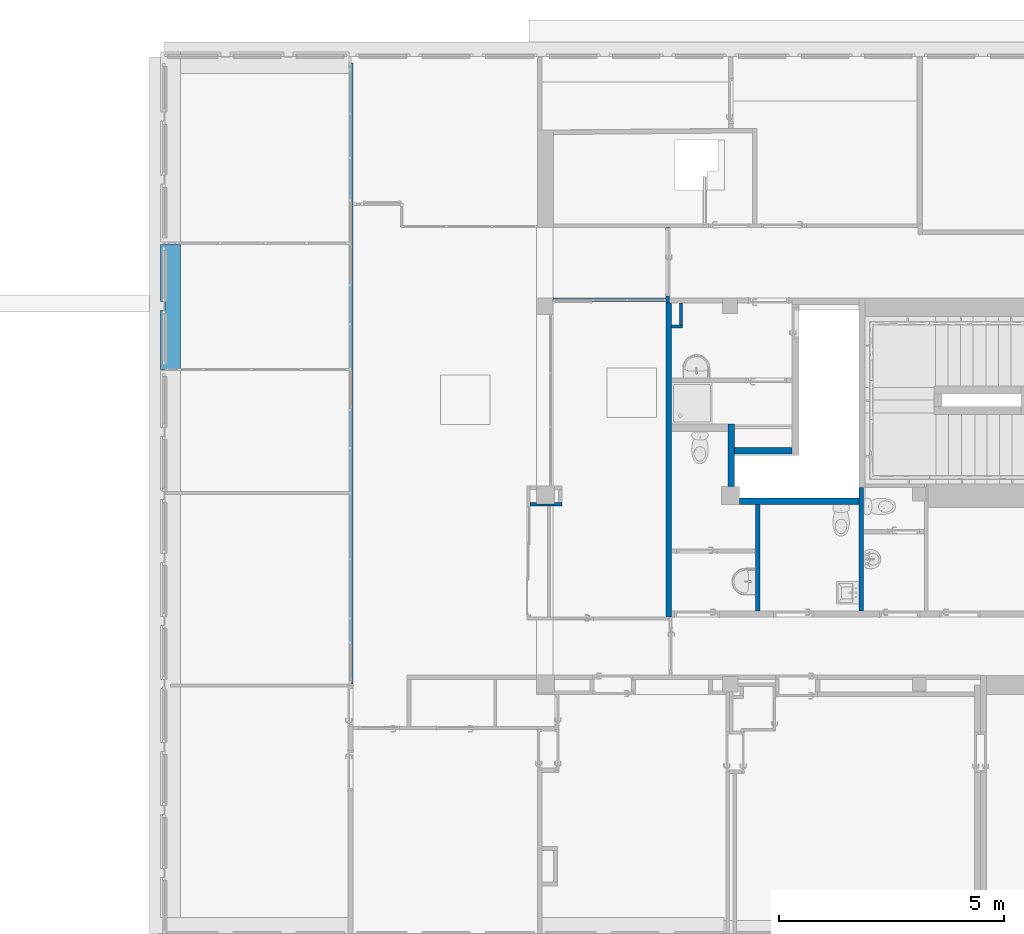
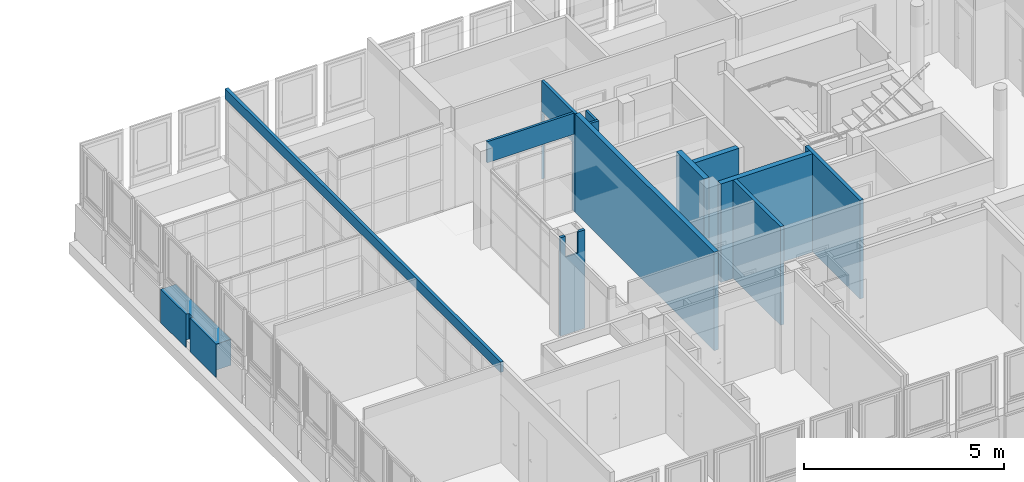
# One storey, part 74 of 97: 13 walls, 3 openings.
"""IFC4 building model written with IfcOpenShell, lengths in metres."""

from ifc_helpers import new_model, entity, si_unit, converted_unit, derived_unit, direction, frame, origin, place, context, subcontext, project, spatial, indexed_curve, outline, extrude, polygons, material, layer, layer_set, type_object, element, save


model = new_model("IFC4")

# Units and contexts
model_context = context("Model", 3, precision=1e-05, world=origin(), true_north=direction((6.12303176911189e-17, 1.0)))
body_context = subcontext(model_context, "Body", "Model", "MODEL_VIEW")
ifc_project = project(units=[si_unit("LENGTHUNIT", "METRE"), si_unit("AREAUNIT", "SQUARE_METRE"), si_unit("VOLUMEUNIT", "CUBIC_METRE"), converted_unit("PLANEANGLEUNIT", "DEGREE", entity("IfcRatioMeasure", 0.0174532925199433), si_unit("PLANEANGLEUNIT", "RADIAN"), dimensions=[0, 0, 0, 0, 0, 0, 0]), si_unit("MASSUNIT", "GRAM", prefix="KILO"), derived_unit("MASSDENSITYUNIT", [(si_unit("MASSUNIT", "GRAM", prefix="KILO"), 1), (si_unit("LENGTHUNIT", "METRE"), -3)]), derived_unit("MOMENTOFINERTIAUNIT", [(si_unit("LENGTHUNIT", "METRE"), 4)]), si_unit("TIMEUNIT", "SECOND"), si_unit("FREQUENCYUNIT", "HERTZ"), si_unit("THERMODYNAMICTEMPERATUREUNIT", "DEGREE_CELSIUS"), derived_unit("THERMALTRANSMITTANCEUNIT", [(si_unit("MASSUNIT", "GRAM", prefix="KILO"), 1), (si_unit("THERMODYNAMICTEMPERATUREUNIT", "KELVIN"), -1), (si_unit("TIMEUNIT", "SECOND"), -3)]), derived_unit("VOLUMETRICFLOWRATEUNIT", [(si_unit("LENGTHUNIT", "METRE"), 3), (si_unit("TIMEUNIT", "SECOND"), -1)]), si_unit("ELECTRICCURRENTUNIT", "AMPERE"), si_unit("ELECTRICVOLTAGEUNIT", "VOLT"), si_unit("POWERUNIT", "WATT"), si_unit("FORCEUNIT", "NEWTON", prefix="KILO"), si_unit("ILLUMINANCEUNIT", "LUX"), si_unit("LUMINOUSFLUXUNIT", "LUMEN"), si_unit("LUMINOUSINTENSITYUNIT", "CANDELA"), derived_unit("USERDEFINED", [(si_unit("MASSUNIT", "GRAM", prefix="KILO"), -1), (si_unit("LENGTHUNIT", "METRE"), -2), (si_unit("TIMEUNIT", "SECOND"), 3), (si_unit("LUMINOUSFLUXUNIT", "LUMEN"), 1)]), derived_unit("LINEARVELOCITYUNIT", [(si_unit("LENGTHUNIT", "METRE"), 1), (si_unit("TIMEUNIT", "SECOND"), -1)]), si_unit("PRESSUREUNIT", "PASCAL"), derived_unit("USERDEFINED", [(si_unit("LENGTHUNIT", "METRE"), -2), (si_unit("MASSUNIT", "GRAM", prefix="KILO"), 1), (si_unit("TIMEUNIT", "SECOND"), -2)]), derived_unit("LINEARFORCEUNIT", [(si_unit("MASSUNIT", "GRAM", prefix="KILO"), 1), (si_unit("LENGTHUNIT", "METRE"), 1), (si_unit("TIMEUNIT", "SECOND"), -2), (si_unit("LENGTHUNIT", "METRE"), -1)]), derived_unit("PLANARFORCEUNIT", [(si_unit("MASSUNIT", "GRAM", prefix="KILO"), 1), (si_unit("LENGTHUNIT", "METRE"), 1), (si_unit("TIMEUNIT", "SECOND"), -2), (si_unit("LENGTHUNIT", "METRE"), -2)])], contexts=[model_context])

# Site, building, storey
site_placement = place(None, origin())
site = spatial("IfcSite", under=ifc_project, at=site_placement, Name="Default", CompositionType="ELEMENT")
building_placement = place(site_placement, origin())
building = spatial("IfcBuilding", under=site, at=building_placement, Name="HOTEL CONSULAIRE BOULOGNE SUR MER", CompositionType="ELEMENT")
storey_placement = place(building_placement, frame((0.0, 0.0, 3.62152697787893)))
storey = spatial("IfcBuildingStorey", under=building, at=storey_placement, Name="Niveau 1", CompositionType="ELEMENT", Elevation=3.62152697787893)

# Walls
ifc_material = material(Name="Mur par défaut", Category="Divers")
ifc_layer_1 = layer(ifc_material, 0.07, Name="Mur par défaut", Category="Divers")
ifc_layer_set_1 = layer_set([ifc_layer_1], Name="Mur de base:Générique - Int. 70 mm")
wall_type_1 = type_object("IfcWallType", Name="Mur de base:Générique - Int. 70 mm", PredefinedType="NOTDEFINED", material=ifc_layer_set_1)
wall_1_placement = place(storey_placement, frame((-2.53052868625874, -16.0746588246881, 0.0)))
element("IfcWall", 1, at=wall_1_placement, inside=storey, type_object=wall_type_1, material=ifc_layer_set_1, Name="Mur de base:Générique - Int. 70 mm", ObjectType="Mur de base:Générique - Int. 70 mm", PredefinedType="NOTDEFINED", context=body_context, shape_type="Tessellation", body=[
    polygons([(0.244790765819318, -0.0349999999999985, 3.01021454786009), (0.0, -0.0349999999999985, 3.01021454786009), (0.0, -0.0349999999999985, 0.0), (0.244790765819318, -0.0349999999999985, 0.0), (0.0, 0.0350000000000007, 3.01021454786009), (0.174790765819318, 0.0350000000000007, 3.01021454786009), (0.244790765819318, 0.0350000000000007, 3.01021454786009), (0.244790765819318, 0.0350000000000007, 0.0), (0.174790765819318, 0.0350000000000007, 0.0), (0.0, 0.0350000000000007, 0.0)], [[[2, 3, 4, 1]], [[6, 7, 8, 9, 10, 5]], [[2, 1, 7, 6, 5]], [[1, 4, 8, 7]], [[10, 3, 2, 5]], [[9, 8, 4, 3, 10]]], closed=True),
])
wall_2_placement = place(storey_placement, frame((-2.32073792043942, -16.0396588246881, 0.0), z_axis=(0.0, 0.0, 1.0), x_axis=(0.0, 1.0, 0.0)))
element("IfcWall", 2, at=wall_2_placement, inside=storey, type_object=wall_type_1, material=ifc_layer_set_1, Name="Mur de base:Générique - Int. 70 mm", ObjectType="Mur de base:Générique - Int. 70 mm", PredefinedType="NOTDEFINED", context=body_context, shape_type="Tessellation", body=[
    polygons([(0.484416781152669, -0.0350000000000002, 3.01021454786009), (0.0, -0.0350000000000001, 3.01021454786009), (0.0, -0.0350000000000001, 0.0), (0.484416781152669, -0.0350000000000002, 0.0), (0.0, 0.0349999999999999, 3.01021454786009), (0.484416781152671, 0.0349999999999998, 3.01021454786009), (0.484416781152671, 0.0349999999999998, 0.0), (0.0, 0.0349999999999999, 0.0)], [[[2, 3, 4, 1]], [[6, 7, 8, 5]], [[2, 1, 6, 5]], [[8, 3, 2, 5]], [[1, 4, 7, 6]], [[4, 3, 8, 7]]], closed=True),
])

# Wall, opening
wall_3_placement = place(storey_placement, frame((-5.17252868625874, -15.4778590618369, 2.36709646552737)))
wall_3 = element("IfcWall", 3, at=wall_3_placement, inside=storey, type_object=wall_type_1, material=ifc_layer_set_1, Name="Mur de base:Générique - Int. 70 mm", ObjectType="Mur de base:Générique - Int. 70 mm", PredefinedType="NOTDEFINED", context=body_context, shape_type="Tessellation", body=[
    polygons([(2.512, -0.0349999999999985, 0.0), (2.512, -0.0349999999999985, 0.643118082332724), (9.00280107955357e-16, -0.0349999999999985, 0.643118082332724), (-1.82587021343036e-16, -0.0349999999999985, 0.0), (2.512, 0.0350000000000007, 0.643118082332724), (2.512, 0.0350000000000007, 0.0), (6.42129373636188e-16, 0.0350000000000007, 0.0), (6.42129373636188e-16, 0.0350000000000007, 0.643118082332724)], [[[3, 4, 1, 2]], [[5, 6, 7, 8]], [[3, 2, 5, 8]], [[2, 1, 6, 5]], [[4, 7, 6, 1]], [[7, 4, 3, 8]]], closed=True),
])
opening_1_placement = place(wall_3_placement, frame((0.0, -0.187400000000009, -2.36709646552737)))
element("IfcOpeningElement", 4, at=opening_1_placement, cuts=wall_3, Name="Mur de base:Générique - Int. 70 mm", ObjectType="Opening", PredefinedType="OPENING", context=body_context, shape_type="SweptSolid", body=[
    extrude(outline(indexed_curve([(-1.18354823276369, -1.256), (1.18354823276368, -1.256), (1.18354823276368, 1.256), (-1.18354823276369, 1.256), (-1.18354823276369, -1.256)], self_intersect=False)), frame((1.256, 0.0, 1.18354823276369), z_axis=(0.0, 1.0, 0.0), x_axis=(0.0, 0.0, 1.0)), (0.0, 0.0, 1.0), 0.374799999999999),
])

# Walls
ifc_layer_2 = layer(ifc_material, 0.1, Name="Mur par défaut", Category="Divers")
ifc_layer_set_2 = layer_set([ifc_layer_2], Name="Mur de base:Générique - Int. 100 mm")
wall_type_2 = type_object("IfcWallType", Name="Mur de base:Générique - Int. 100 mm", PredefinedType="NOTDEFINED", material=ifc_layer_set_2)
wall_4_placement = place(storey_placement, frame((1.67747131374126, -19.6449143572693, -0.0350000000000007), z_axis=(0.0, 0.0, 1.0), x_axis=(0.0, -1.0, 0.0)))
element("IfcWall", 5, at=wall_4_placement, inside=storey, type_object=wall_type_2, material=ifc_layer_set_2, Name="Mur de base:Générique - Int. 100 mm", ObjectType="Mur de base:Générique - Int. 100 mm", PredefinedType="NOTDEFINED", context=body_context, shape_type="Tessellation", body=[
    polygons([(2.75011324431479, -0.0500000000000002, 3.0452145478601), (0.384919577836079, -0.0500000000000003, 3.04521454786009), (0.234919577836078, -0.0500000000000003, 3.0452145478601), (0.0, -0.0500000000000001, 3.0452145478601), (0.0, -0.0500000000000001, 2.80321454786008), (0.0, -0.0500000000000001, 5.41433564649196e-16), (0.234919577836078, -0.0500000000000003, 5.41433564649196e-16), (0.234919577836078, -0.0500000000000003, 0.0350000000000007), (2.75011324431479, -0.0500000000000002, 0.0350000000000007), (0.0, 0.0499999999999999, 3.0452145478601), (0.930677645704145, 0.0499999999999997, 3.0452145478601), (1.03067764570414, 0.0499999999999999, 3.0452145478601), (2.75011324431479, 0.0499999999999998, 3.0452145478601), (2.75011324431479, 0.0499999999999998, 0.0350000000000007), (1.03067764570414, 0.0499999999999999, 0.0350000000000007), (0.930677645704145, 0.0499999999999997, 0.0350000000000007), (0.0, 0.0499999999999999, 0.0350000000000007), (0.0, 0.0150000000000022, 5.41433564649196e-16), (0.234919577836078, 0.0150000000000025, 5.41433564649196e-16), (0.0, 0.0150000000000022, 0.0350000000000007), (0.234919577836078, 0.0150000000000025, 0.0350000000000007)], [[[3, 4, 5, 6, 7, 8, 9, 1, 2]], [[14, 15, 16, 17, 10, 11, 12, 13]], [[21, 19, 18, 20]], [[7, 6, 18, 19]], [[15, 14, 9, 8, 21, 20, 17, 16]], [[2, 1, 13, 12, 11, 10, 4, 3]], [[20, 18, 6, 5, 4, 10, 17]], [[1, 9, 14, 13]], [[21, 8, 7, 19]]], closed=True),
])
wall_5_placement = place(storey_placement, frame((-0.620980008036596, -22.3950276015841, 0.0), z_axis=(0.0, 0.0, 1.0), x_axis=(0.0, 1.0, 0.0)))
element("IfcWall", 6, at=wall_5_placement, inside=storey, type_object=wall_type_2, material=ifc_layer_set_2, Name="Mur de base:Générique - Int. 100 mm", ObjectType="Mur de base:Générique - Int. 100 mm", PredefinedType="NOTDEFINED", context=body_context, shape_type="Tessellation", body=[
    polygons([(2.36519366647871, -0.05, 3.01021454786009), (0.0, -0.05, 3.01021454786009), (0.0, -0.05, 0.0), (2.36519366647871, -0.05, 0.0), (0.0, 0.05, 3.01021454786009), (1.28717159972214, 0.05, 3.01021454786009), (1.37717159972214, 0.05, 3.01021454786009), (2.36519366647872, 0.05, 3.01021454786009), (2.36519366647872, 0.05, 0.0), (1.37717159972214, 0.05, 0.0), (1.28717159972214, 0.05, 0.0), (0.0, 0.05, 0.0)], [[[2, 3, 4, 1]], [[9, 10, 11, 12, 5, 6, 7, 8]], [[2, 1, 8, 7, 6, 5]], [[5, 12, 3, 2]], [[11, 10, 9, 4, 3, 12]], [[1, 4, 9, 8]]], closed=True),
])

# Wall, opening
ifc_layer_3 = layer(ifc_material, 0.09, Name="Mur par défaut", Category="Divers")
ifc_layer_set_3 = layer_set([ifc_layer_3], Name="Mur de base:Générique - Int. 90")
wall_type_3 = type_object("IfcWallType", Name="Mur de base:Générique - Int. 90", PredefinedType="NOTDEFINED", material=ifc_layer_set_3)
wall_6_placement = place(storey_placement, frame((-9.64962464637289, -24.0092596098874, 2.69696046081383), z_axis=(0.0, 0.0, 1.0), x_axis=(0.0, 1.0, 0.0)))
wall_6 = element("IfcWall", 7, at=wall_6_placement, inside=storey, type_object=wall_type_3, material=ifc_layer_set_3, Name="Mur de base:Générique - Int. 90", ObjectType="Mur de base:Générique - Int. 90", PredefinedType="NOTDEFINED", context=body_context, shape_type="Tessellation", body=[
    polygons([(13.7939354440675, -0.045000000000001, 0.313254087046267), (0.0, -0.0450000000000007, 0.313254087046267), (0.0, -0.0450000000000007, 0.0), (13.7939354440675, -0.045000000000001, 0.0), (0.0, 0.0449999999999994, 0.313254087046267), (13.7939354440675, 0.0449999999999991, 0.313254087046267), (13.7939354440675, 0.0449999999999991, 0.0), (0.0, 0.0449999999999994, 0.0)], [[[2, 3, 4, 1]], [[6, 7, 8, 5]], [[1, 4, 7, 6]], [[2, 1, 6, 5]], [[8, 3, 2, 5]], [[3, 8, 7, 4]]], closed=True),
])
opening_2_placement = place(wall_6_placement, frame((0.0, 0.197399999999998, -2.69696046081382)))
element("IfcOpeningElement", 8, at=opening_2_placement, cuts=wall_6, Name="Mur de base:Générique - Int. 90", ObjectType="Opening", PredefinedType="OPENING", context=body_context, shape_type="SweptSolid", body=[
    extrude(outline(indexed_curve([(-1.34848023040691, -6.89696772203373), (1.34848023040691, -6.89696772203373), (1.34848023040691, 6.89696772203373), (-1.34848023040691, 6.89696772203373), (-1.34848023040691, -6.89696772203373)], self_intersect=False)), frame((6.89696772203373, -0.394799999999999, 1.34848023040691), z_axis=(0.0, 1.0, 0.0), x_axis=(0.0, 0.0, 1.0)), (0.0, 0.0, 1.0), 0.394799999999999),
])

# Walls
ifc_layer_4 = layer(ifc_material, 0.13, Name="Mur par défaut", Category="Divers")
ifc_layer_set_4 = layer_set([ifc_layer_4], Name="Mur de base:Générique - Int. 130 mm")
wall_type_4 = type_object("IfcWallType", Name="Mur de base:Générique - Int. 130 mm", PredefinedType="NOTDEFINED", material=ifc_layer_set_4)
wall_7_placement = place(storey_placement, frame((-2.59552868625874, -15.5552420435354, 0.0), z_axis=(0.0, 0.0, 1.0), x_axis=(0.0, -1.0, 0.0)))
element("IfcWall", 9, at=wall_7_placement, inside=storey, type_object=wall_type_4, material=ifc_layer_set_4, Name="Mur de base:Générique - Int. 130 mm", ObjectType="Mur de base:Générique - Int. 130 mm", PredefinedType="NOTDEFINED", context=body_context, shape_type="Tessellation", body=[
    polygons([(6.96978555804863, -0.0650000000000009, 3.01021454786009), (0.0, -0.0650000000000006, 3.01021454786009), (0.0, -0.0650000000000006, 0.0), (6.96978555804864, -0.0650000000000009, 0.0), (0.0, 0.0649999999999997, 3.01021454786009), (0.484416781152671, 0.0649999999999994, 3.01021454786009), (0.55441678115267, 0.0649999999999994, 3.01021454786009), (1.66254357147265, 0.0649999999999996, 3.01021454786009), (1.76254357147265, 0.0649999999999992, 3.01021454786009), (2.68774662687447, 0.0649999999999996, 3.01021454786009), (2.84774662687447, 0.0649999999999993, 3.01021454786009), (5.46261395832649, 0.0649999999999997, 3.01021454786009), (5.55261395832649, 0.0649999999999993, 3.01021454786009), (6.83978555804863, 0.0649999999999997, 3.01021454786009), (6.96978555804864, 0.0649999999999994, 3.01021454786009), (6.96978555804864, 0.0649999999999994, 0.0), (6.83978555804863, 0.0649999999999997, 0.0), (5.55261395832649, 0.0649999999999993, 0.0), (5.46261395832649, 0.0649999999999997, 0.0), (2.84774662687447, 0.0649999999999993, 0.0), (2.68774662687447, 0.0649999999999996, 0.0), (1.76254357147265, 0.0649999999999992, 0.0), (1.66254357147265, 0.0649999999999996, 0.0), (0.55441678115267, 0.0649999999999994, 0.0), (0.484416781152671, 0.0649999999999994, 0.0), (0.0, 0.0649999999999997, 0.0), (6.96978555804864, 0.0063958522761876, 3.01021454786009), (0.0, 0.0150000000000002, 3.01021454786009), (6.96978555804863, 0.00639585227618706, 0.0), (0.0, 0.0150000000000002, 0.0)], [[[2, 3, 4, 1]], [[14, 15, 16, 17, 18, 19, 20, 21, 22, 23, 24, 25, 26, 5, 6, 7, 8, 9, 10, 11, 12, 13]], [[11, 10, 9, 8, 7, 6, 5, 28, 2, 1, 27, 15, 14, 13, 12]], [[1, 4, 29, 16, 15, 27]], [[30, 3, 2, 28, 5, 26]], [[17, 16, 29, 4, 3, 30, 26, 25, 24, 23, 22, 21, 20, 19, 18]]], closed=True),
])
ifc_layer_5 = layer(ifc_material, 0.15, Name="Mur par défaut", Category="Divers")
ifc_layer_set_5 = layer_set([ifc_layer_5], Name="Mur de base:Générique - Int. 150 mm")
wall_type_5 = type_object("IfcWallType", Name="Mur de base:Générique - Int. 150 mm", PredefinedType="NOTDEFINED", material=ifc_layer_set_5)
wall_8_placement = place(storey_placement, frame((0.141635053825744, -18.8296212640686, 0.0), z_axis=(0.0, 0.0, 1.0), x_axis=(-1.0, 0.0, 0.0)))
element("IfcWall", 10, at=wall_8_placement, inside=storey, type_object=wall_type_5, material=ifc_layer_set_5, Name="Mur de base:Générique - Int. 150 mm", ObjectType="Mur de base:Générique - Int. 150 mm", PredefinedType="NOTDEFINED", context=body_context, shape_type="Tessellation", body=[
    polygons([(1.277, -0.0750000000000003, 3.01021454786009), (3.12741316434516e-16, -0.0750000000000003, 3.01021454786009), (3.12741316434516e-16, -0.0750000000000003, 0.0), (1.277, -0.0750000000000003, 0.0), (2.67713410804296e-17, 0.0750000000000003, 3.01021454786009), (1.277, 0.0750000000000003, 3.01021454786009), (1.277, 0.0750000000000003, 0.0), (-7.06825671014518e-18, 0.0750000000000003, 0.0)], [[[2, 3, 4, 1]], [[6, 7, 8, 5]], [[2, 1, 6, 5]], [[8, 3, 2, 5]], [[4, 7, 6, 1]], [[4, 3, 8, 7]]], closed=True),
])
wall_9_placement = place(storey_placement, frame((-1.21036494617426, -18.2429886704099, -0.0350000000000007), z_axis=(0.0, 0.0, 1.0), x_axis=(0.0, -1.0, 0.0)))
element("IfcWall", 11, at=wall_9_placement, inside=storey, type_object=wall_type_5, material=ifc_layer_set_5, Name="Mur de base:Générique - Int. 150 mm", ObjectType="Mur de base:Générique - Int. 150 mm", PredefinedType="NOTDEFINED", context=body_context, shape_type="Tessellation", body=[
    polygons([(0.0, -0.0750000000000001, 3.0452145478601), (0.0, -0.0750000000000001, 0.0350000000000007), (0.16, -0.0750000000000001, 0.0350000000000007), (1.38684526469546, -0.0749999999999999, 0.0350000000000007), (1.38684526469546, -0.0749999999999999, 3.0452145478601), (0.16, -0.0750000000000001, 3.0452145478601), (0.0, 0.0749999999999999, 0.0350000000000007), (0.0, 0.0749999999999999, 3.0452145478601), (0.511632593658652, 0.075, 3.0452145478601), (0.661632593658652, 0.075, 3.0452145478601), (1.38684526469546, 0.075, 3.0452145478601), (1.38684526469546, 0.075, 5.41433564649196e-16), (0.689720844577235, 0.075, 5.41433564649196e-16), (0.689720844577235, 0.075, 0.0350000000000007), (0.661632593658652, 0.075, 0.0350000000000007), (0.511632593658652, 0.075, 0.0350000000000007), (0.0970605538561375, 0.075, 0.0350000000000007), (0.0470605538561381, 0.075, 0.0350000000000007), (0.689720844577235, 0.0580204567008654, 5.41433564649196e-16), (1.38684526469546, 0.0580204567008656, 5.41433564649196e-16), (0.689720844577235, 0.0580204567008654, 0.0350000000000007), (1.38684526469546, 0.0580204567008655, 0.0350000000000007)], [[[6, 1, 2, 3, 4, 5]], [[21, 19, 20, 22]], [[14, 15, 16, 17, 18, 7, 8, 9, 10, 11, 12, 13]], [[20, 19, 13, 12]], [[21, 22, 4, 3, 2, 7, 18, 17, 16, 15, 14]], [[6, 5, 11, 10, 9, 8, 1]], [[8, 7, 2, 1]], [[21, 14, 13, 19]], [[22, 20, 12, 11, 5, 4]]], closed=True),
])
wall_10_placement = place(storey_placement, frame((1.62747131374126, -19.9548339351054, 0.0), z_axis=(0.0, 0.0, 1.0), x_axis=(-1.0, 0.0, 0.0)))
element("IfcWall", 12, at=wall_10_placement, inside=storey, type_object=wall_type_5, material=ifc_layer_set_5, Name="Mur de base:Générique - Int. 150 mm", ObjectType="Mur de base:Générique - Int. 150 mm", PredefinedType="NOTDEFINED", context=body_context, shape_type="Tessellation", body=[
    polygons([(2.65629454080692, -0.0750000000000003, 3.01021454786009), (5.39725093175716e-16, -0.0750000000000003, 3.0102145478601), (5.39725093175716e-16, -0.0750000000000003, 5.41433564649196e-16), (2.65629454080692, -0.0750000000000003, 5.41433564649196e-16), (3.83515401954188e-16, 0.0750000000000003, 3.0102145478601), (2.19845132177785, 0.0750000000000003, 3.0102145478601), (2.29845132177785, 0.0749999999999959, 3.0102145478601), (2.65629454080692, 0.0750000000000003, 3.0102145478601), (2.65629454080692, 0.0750000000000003, 5.41433564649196e-16), (2.29845132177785, 0.0749999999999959, 5.41433564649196e-16), (2.19845132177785, 0.0750000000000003, 5.41433564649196e-16), (1.1279861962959e-16, 0.0750000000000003, 5.41433564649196e-16)], [[[2, 3, 4, 1]], [[9, 10, 11, 12, 5, 6, 7, 8]], [[2, 1, 8, 7, 6, 5]], [[9, 8, 1, 4]], [[12, 3, 2, 5]], [[4, 3, 12, 11, 10, 9]]], closed=True),
])

# Wall, opening
ifc_layer_6 = layer(ifc_material, 0.08, Name="Mur par défaut", Category="Divers")
ifc_layer_set_6 = layer_set([ifc_layer_6], Name="Mur de base:Générique - Int. 80")
wall_type_6 = type_object("IfcWallType", Name="Mur de base:Générique - Int. 80", PredefinedType="NOTDEFINED", material=ifc_layer_set_6)
wall_11_placement = place(storey_placement, frame((-2.62052868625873, -13.8709141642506, 0.0), z_axis=(0.0, 0.0, 1.0), x_axis=(0.0, -1.0, 0.0)))
wall_11 = element("IfcWall", 13, at=wall_11_placement, inside=storey, type_object=wall_type_6, material=ifc_layer_set_6, Name="Mur de base:Générique - Int. 80", ObjectType="Mur de base:Générique - Int. 80", PredefinedType="NOTDEFINED", context=body_context, shape_type="Tessellation", body=[
    polygons([(0.0083278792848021, -0.0400000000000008, 0.0), (0.0, -0.0400000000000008, 0.0), (0.0, 0.0400000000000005, 0.0), (0.0083278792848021, 0.0400000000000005, 0.0), (1.6843278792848, -0.0400000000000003, 3.01021454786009), (1.64194489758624, -0.0400000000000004, 3.01021454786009), (1.57194489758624, -0.0400000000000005, 3.01021454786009), (0.0, -0.0400000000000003, 3.01021454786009), (0.0083278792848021, -0.0400000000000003, 2.075), (1.5283278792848, -0.0400000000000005, 2.075), (1.5283278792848, -0.0400000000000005, 0.0), (1.6843278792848, -0.0400000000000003, 0.0), (0.0, 0.04, 3.01021454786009), (1.5643278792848, 0.0399999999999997, 3.01021454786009), (1.6843278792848, 0.0399999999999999, 3.01021454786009), (1.6843278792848, 0.0399999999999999, 0.0), (1.5643278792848, 0.0399999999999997, 0.0), (1.5283278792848, 0.0399999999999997, 0.0), (1.5283278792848, 0.0399999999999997, 2.075), (0.0083278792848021, 0.04, 2.075)], [[[3, 4, 1, 2]], [[10, 9, 20, 19]], [[17, 16, 12, 11, 18]], [[2, 1, 9, 10, 11, 12, 5, 6, 7, 8]], [[15, 16, 17, 18, 19, 20, 4, 3, 13, 14]], [[6, 5, 15, 14, 13, 8, 7]], [[13, 3, 2, 8]], [[11, 10, 19, 18]], [[9, 1, 4, 20]], [[5, 12, 16, 15]]], closed=True),
])
opening_3_placement = place(wall_11_placement, frame((0.00832787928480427, -0.039999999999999, 0.0)))
element("IfcOpeningElement", 14, at=opening_3_placement, cuts=wall_11, Name="Double (R):1.43m x 2.04m 2:1", ObjectType="Opening", PredefinedType="OPENING", context=body_context, shape_type="SweptSolid", body=[
    extrude(outline(indexed_curve([(0.0, 0.0), (2.075, 0.0), (2.075, 1.52), (0.0, 1.52), (0.0, 0.0)], self_intersect=False)), frame((0.0, 0.0, 0.0), z_axis=(0.0, 1.0, 0.0), x_axis=(0.0, 0.0, 1.0)), (0.0, 0.0, 1.0), 0.08),
])

# Walls
wall_12_placement = place(storey_placement, frame((-5.67552868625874, -20.0177595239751, 0.0)))
element("IfcWall", 15, at=wall_12_placement, inside=storey, type_object=wall_type_6, material=ifc_layer_set_6, Name="Mur de base:Générique - Int. 80", ObjectType="Mur de base:Générique - Int. 80", PredefinedType="NOTDEFINED", context=body_context, shape_type="Tessellation", body=[
    polygons([(1.08286712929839e-15, 0.0399999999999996, 3.0102145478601), (0.14300000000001, 0.0399999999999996, 3.0102145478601), (0.14300000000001, 0.0399999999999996, 5.41433564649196e-16), (0.0, 0.0399999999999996, 5.41433564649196e-16), (0.0, -0.0399999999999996, 3.0102145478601), (0.14300000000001, -0.0399999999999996, 3.0102145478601), (0.14300000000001, 0.00073192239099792, 3.0102145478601), (0.707671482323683, -0.0399999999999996, 3.0102145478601), (0.50300000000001, -0.0399999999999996, 3.0102145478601), (0.50300000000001, -0.0399999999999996, 2.37021454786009), (0.458000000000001, -0.0399999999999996, 2.37021454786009), (0.388000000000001, -0.0399999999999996, 2.37021454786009), (0.14300000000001, -0.0399999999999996, 2.37021454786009), (0.0, -0.0399999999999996, 5.41433564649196e-16), (0.388000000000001, -0.0399999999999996, 5.41433564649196e-16), (0.458000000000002, -0.0399999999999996, 5.41433564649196e-16), (0.707671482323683, -0.0399999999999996, 5.41433564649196e-16), (0.54300000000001, 0.0399999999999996, 3.0102145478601), (0.627671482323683, 0.0399999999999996, 3.0102145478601), (0.707671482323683, 0.0399999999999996, 3.0102145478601), (0.707671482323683, 0.0399999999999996, 5.41433564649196e-16), (0.54300000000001, 0.0399999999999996, 5.41433564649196e-16), (0.54300000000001, 0.00073192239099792, 3.0102145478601), (0.50300000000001, 0.00073192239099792, 3.0102145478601), (0.50300000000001, 0.00073192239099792, 2.37021454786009), (0.14300000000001, 0.00073192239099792, 2.37021454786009), (0.14300000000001, 0.00073192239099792, 5.41433564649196e-16), (0.54300000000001, 0.00073192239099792, 5.41433564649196e-16)], [[[2, 3, 4, 1]], [[20, 21, 22, 18, 19]], [[24, 23, 28, 27, 26, 25]], [[5, 6, 7, 2, 1]], [[9, 8, 20, 19, 18, 23, 24]], [[12, 11, 10, 25, 26, 13]], [[13, 6, 5, 14, 15, 16, 17, 8, 9, 10, 11, 12]], [[8, 17, 21, 20]], [[26, 27, 3, 2, 7, 6, 13]], [[4, 14, 5, 1]], [[9, 24, 25, 10]], [[22, 28, 23, 18]], [[16, 15, 14, 4, 3, 27, 28, 22, 21, 17]]], closed=True),
])
ifc_layer_7 = layer(ifc_material, 0.44, Name="Mur par défaut", Category="Divers")
ifc_layer_set_7 = layer_set([ifc_layer_7], Name="Mur de base:Générique - Ext.440")
wall_type_7 = type_object("IfcWallType", Name="Mur de base:Générique - Ext.440", PredefinedType="NOTDEFINED", material=ifc_layer_set_7)
wall_13_placement = place(storey_placement, frame((-13.6630998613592, -17.0222596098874, -0.230422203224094), z_axis=(0.0, 0.0, 1.0), x_axis=(0.0, 1.0, 0.0)))
element("IfcWall", 16, at=wall_13_placement, inside=storey, type_object=wall_type_7, material=ifc_layer_set_7, Name="Mur de base:Générique - Ext.440", ObjectType="Mur de base:Générique - Ext.440", PredefinedType="NOTDEFINED", context=body_context, shape_type="Tessellation", body=[
    polygons([(0.0, 0.220000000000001, 0.0), (0.0, 0.220000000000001, 1.02203474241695), (1.31290930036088, 0.220000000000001, 1.02203474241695), (1.31290930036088, 0.220000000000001, 0.0), (1.31080970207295, 0.206002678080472, 0.0), (1.31080970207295, 0.202000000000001, 0.0), (0.0, 0.202, 0.0), (2.77480970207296, 0.202000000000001, 0.230422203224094), (1.51080970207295, 0.202000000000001, 0.230422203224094), (1.51080970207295, 0.202000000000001, 0.0), (2.77480970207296, 0.202000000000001, 0.0), (2.77480970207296, -0.219999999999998, 1.02203474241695), (0.0, -0.219999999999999, 1.02203474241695), (0.0, -0.219999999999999, 0.230422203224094), (2.77480970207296, -0.219999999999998, 0.230422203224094), (2.77480970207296, 0.220000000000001, 1.02203474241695), (2.77480970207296, 0.220000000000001, 0.0), (1.50871010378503, 0.220000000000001, 0.0), (1.50871010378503, 0.220000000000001, 1.02203474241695), (1.51080970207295, 0.206002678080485, 0.0), (1.51080970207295, 0.206002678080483, 1.02203474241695), (1.51080970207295, 0.12500267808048, 1.02203474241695), (1.31080970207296, 0.125002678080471, 1.02203474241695), (1.31080970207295, 0.206002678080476, 1.02203474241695), (0.0, 0.202, 0.230422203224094), (1.51080970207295, 0.12500267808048, 0.230422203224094), (1.31080970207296, 0.125002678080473, 0.230422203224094), (1.31080970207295, 0.201999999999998, 0.230422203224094)], [[[3, 4, 1, 2]], [[16, 17, 18, 19]], [[26, 27, 23, 22]], [[6, 7, 1, 4, 5]], [[11, 10, 20, 18, 17]], [[25, 28, 27, 26, 9, 8, 15, 14]], [[9, 10, 11, 8]], [[13, 14, 15, 12]], [[25, 7, 6, 28]], [[12, 15, 8, 11, 17, 16]], [[28, 6, 5, 24, 23, 27]], [[12, 16, 19, 21, 22, 23, 24, 3, 2, 13]], [[13, 2, 1, 7, 25, 14]], [[9, 26, 22, 21, 20, 10]], [[20, 21, 19, 18]], [[5, 4, 3, 24]]], closed=True),
])

save(model, "model.ifc")
